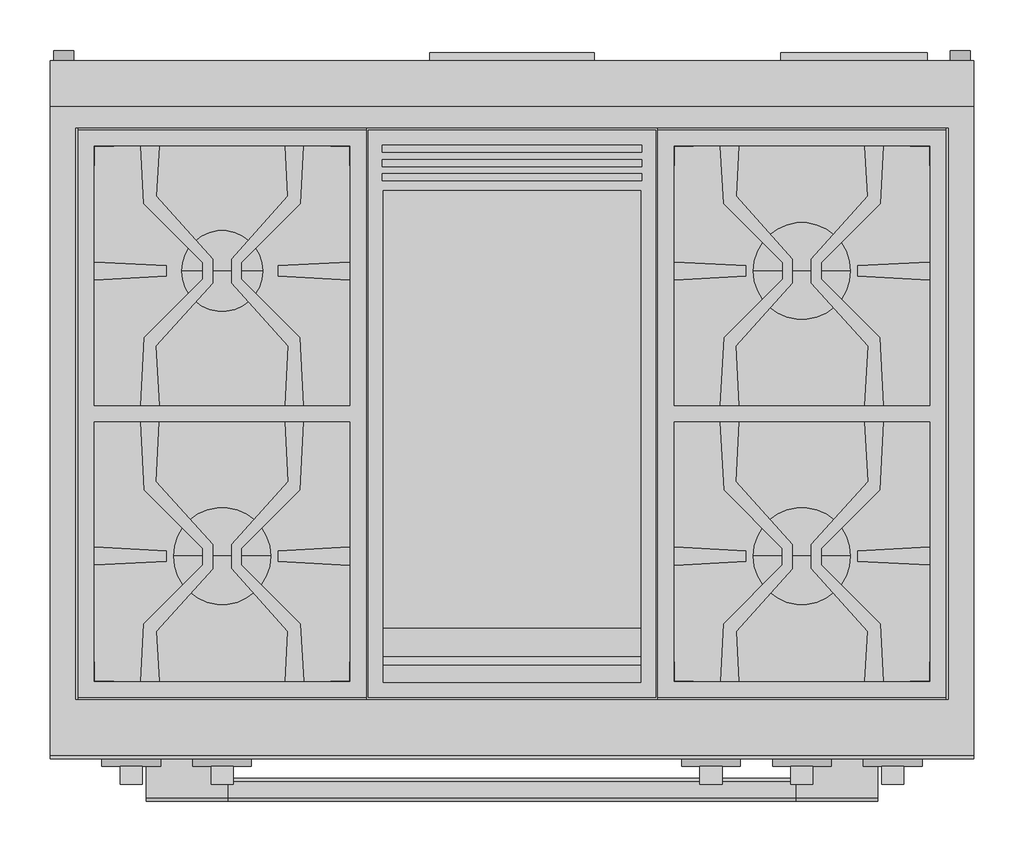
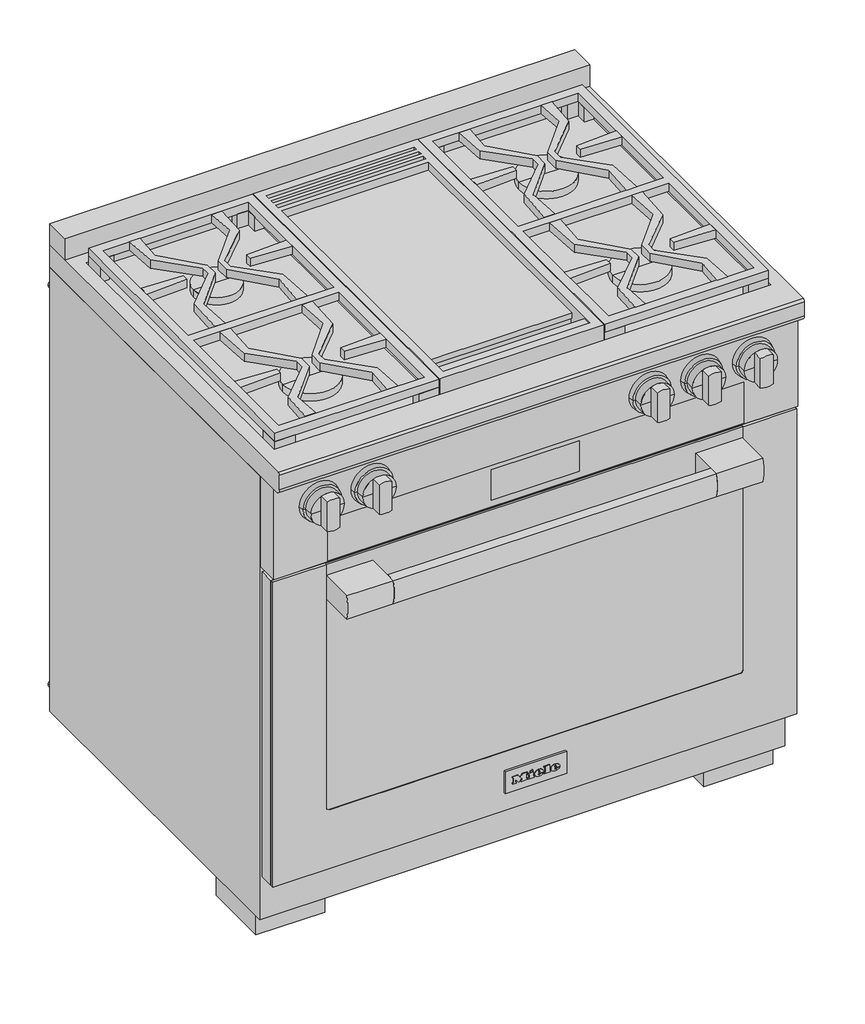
# Not in any storey: 1 proxy.
"""IFC4 building model written with IfcOpenShell, lengths in millimetres."""

from ifc_helpers import new_model, si_unit, origin, place, context, project, spatial, transform, mapped, element, save
from components import specialty_equipment_9b3b433e, specialty_equipment_e8b4f273

model = new_model("IFC4")

# Units and contexts
model_context = context("Model", 3, world=origin())
ifc_project = project(units=[si_unit("LENGTHUNIT", "METRE", prefix="MILLI")], contexts=[model_context])

# Site, building
site = spatial("IfcSite", under=ifc_project)
building = spatial("IfcBuilding", under=site)

# Proxy
placement = place(None, origin())
specialty_equipment_shape = specialty_equipment_9b3b433e(model_context)
specialty_equipment_2_shape = specialty_equipment_e8b4f273(model_context)
element("IfcBuildingElementProxy", 1, Name="11791630_USA_HR1936-3LP_EDST-CLS : 25193682_USA_11791630_HR1936-3LP_EDST-CLS", ObjectType="11791630_USA_HR1936-3LP_EDST-CLS : 25193682_USA_11791630_HR1936-3LP_EDST-CLS", at=placement, inside=building, context=model_context, shape_type="MappedRepresentation", body=[
    mapped(specialty_equipment_shape, transform((0.0, 0.0, 0.0), x_axis=(1.0, 0.0, 0.0), y_axis=(0.0, 1.0, 0.0), z_axis=(0.0, 0.0, 1.0))),
    mapped(specialty_equipment_2_shape, transform((0.0, 0.0, 0.0), x_axis=(1.0, 0.0, 0.0), y_axis=(0.0, 1.0, 0.0), z_axis=(0.0, 0.0, 1.0))),
])

save(model, "model.ifc")
